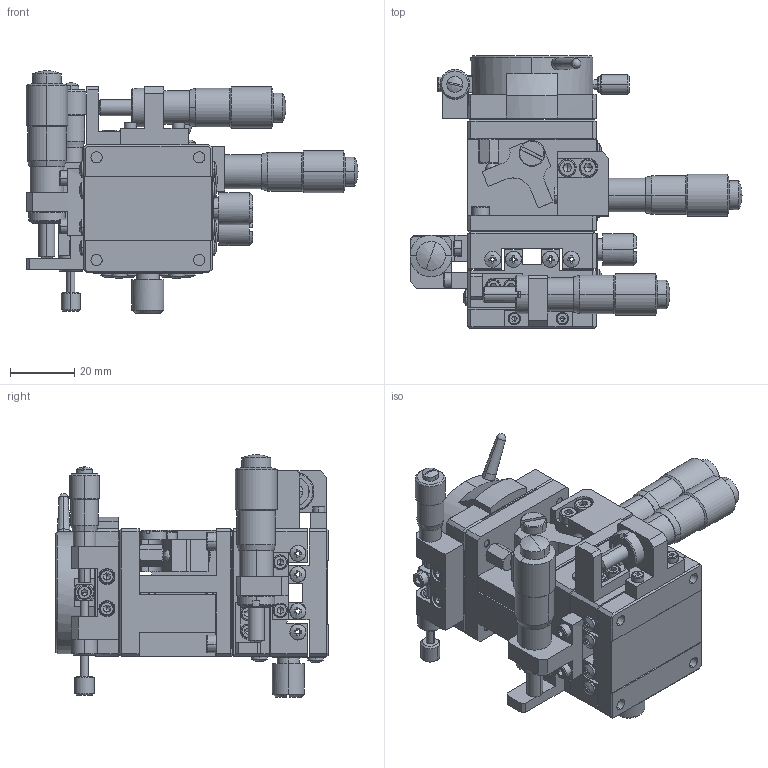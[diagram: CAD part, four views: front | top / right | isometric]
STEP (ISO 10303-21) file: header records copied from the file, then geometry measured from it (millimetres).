
FILE_DESCRIPTION (( 'STEP AP214' ), '1' );
FILE_NAME ('LD40-R.STEP', '2022-09-12T09:26:37', ( '' ), ( '' ), 'SwSTEP 2.0', 'SolidWorks 2017', '' );
FILE_SCHEMA (( 'AUTOMOTIVE_DESIGN' ));
Length unit declared in the file: millimetre
Products named in the file (1): LD40-R
Bounding box: 103.46 x 85 x 75.6 mm (x, y, z)
Surface area: 51945.6 mm2 (no closed solid volume)
Topology: 0 solids, 51 shells, 1192 faces, 3521 edges, 2337 vertices
Faces by surface type: plane 689, cylinder 222, cone 205, bspline 76
Entity records: 49335 total; most frequent: CARTESIAN_POINT 19896, ORIENTED_EDGE 6034, DIRECTION 5459, EDGE_CURVE 3444, VERTEX_POINT 2335, VECTOR 1879, LINE 1879, AXIS2_PLACEMENT_3D 1790
